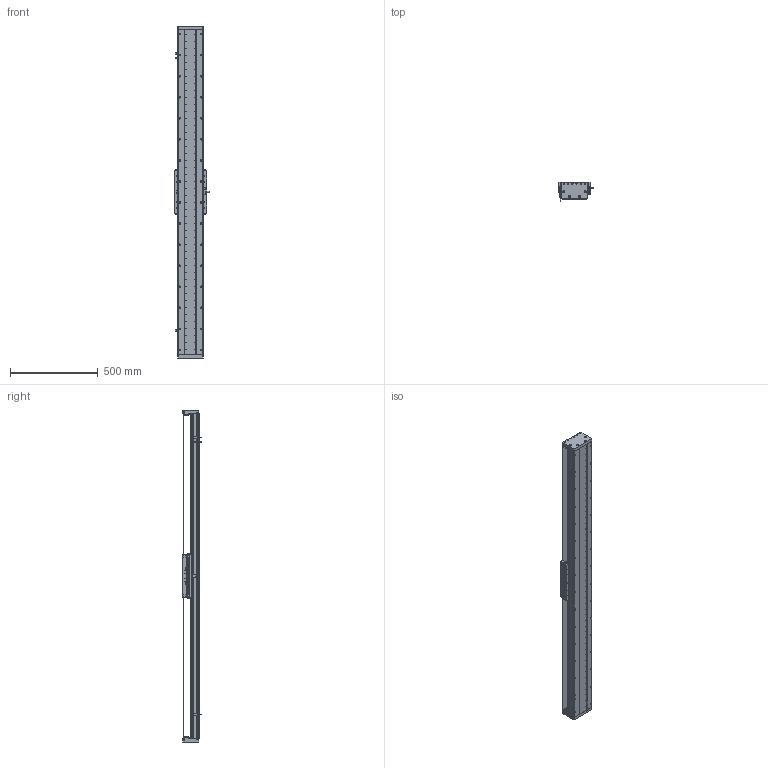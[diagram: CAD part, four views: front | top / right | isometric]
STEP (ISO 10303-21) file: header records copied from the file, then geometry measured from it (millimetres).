
FILE_DESCRIPTION (( 'STEP AP203' ), '1' );
FILE_NAME ('DA-C145-C3-T1560-C010-0.2 眻盄萇儂.STEP', '2025-08-14T01:25:54', ( '' ), ( '' ), 'SwSTEP 2.0', 'SolidWorks 2019', '' );
FILE_SCHEMA (( 'CONFIG_CONTROL_DESIGN' ));
Length unit declared in the file: millimetre
Products named in the file (32): 葩璃 鞠褒情蹟譫 M3^DA-C145-C3-T-C010-0.2; 葩璃 CKMA01-W060-TRL^DA-C145-C3-T-C010-0.2; 葩璃 DA95-GT-T-00^IU-CU145-L 菁釱絳寢; 葩璃 DA145-C3-DP-B-00 菜えB^CU145-W 幗紩賑怢; 复件 DA146 钢带垫块^复件 CU145 钢带组件_DA-C145-C3-T-C010-0.2; 葩璃 DMA-010-0.2 黍杅芛^DA-C145-C3-T-C010-0.2; 复件 DA145 钢带^复件 CU145 钢带组件_DA-C145-C3-T-C010-0.2; IU-CU145-L-00 菁釱(L1860); 复件 DA146 钢带拉块^复件 CU145 钢带组件_DA-C145-C3-T-C010-0.2; 葩璃 PM-T45^DA-C145-C3-T-C010-0.2; 葩璃 CKM03-W060-C1C2-TP-0.2^DA-C145-C3-T-C010-0.2; 葩璃 DA145-C3-DP-A-00 菜えA^CU145-W 幗紩賑怢; 复件 纯铜油杯 6x6mm^CU145-W 滚珠滑台; 66245-CU145-HT-W-00 賑雄怢啣(3D芞祧)(00); TAY01-M8; 复件 DA145-GYP-00 光电感应片^DA-C145-C3-T-C010-0.2; CU145-W-00 珨极趙賑雄怢啣; IU-CU145-L 菁釱絳寢; 复件 内六角平端紧定螺钉 GB.T77-2000 M5×10^CU145-W 滚珠滑台; 复件 DA95-HK-GT-00 滑块钢轨^CU145-W-00 一体化滑动台板; 葩璃 DA95-HXJ-00 遣喳砎蝶^DA-C145-C3-T-C010-0.2; 葩璃 CU145 詩湍郪璃^DA-C145-C3-T-C010-0.2; 复件 DA145-DG 钢带端盖^复件 CU145 钢带组件_DA-C145-C3-T-C010-0.2; 复件 DA145-C3-YB-A-00 压板A^CU145-W 滚珠滑台; DA-C145-C3-T1560-C010-0.2 眻盄萇儂; 复件 DA95-MFP-01 密封片^CU145-W 滚珠滑台; 复件 DA145-C3-YB-B-00 压板B^CU145-W 滚珠滑台; 复件 半圆头内六角螺钉 M3×6^CU145-W 滚珠滑台; 葩璃 XD-U-02L 棠掑喜^DA-C145-C3-T-C010-0.2; 复件 DA95-DB-00  挡板^CU145-W 滚珠滑台; 复件 DA145-C3-DK-00 挡块^CU145-W 滚珠滑台; CU145-W 幗紩賑怢
Assembly tree (103 placements, depth 4):
  DA-C145-C3-T1560-C010-0.2 眻盄萇儂
    IU-CU145-L 菁釱絳寢
      IU-CU145-L-00 菁釱(L1860)
      葩璃 DA95-GT-T-00^IU-CU145-L 菁釱絳寢  x4
    葩璃 CU145 詩湍郪璃^DA-C145-C3-T-C010-0.2
      复件 DA145-DG 钢带端盖^复件 CU145 钢带组件_DA-C145-C3-T-C010-0.2  x2
      复件 DA146 钢带拉块^复件 CU145 钢带组件_DA-C145-C3-T-C010-0.2  x2
      复件 DA146 钢带垫块^复件 CU145 钢带组件_DA-C145-C3-T-C010-0.2  x2
      复件 DA145 钢带^复件 CU145 钢带组件_DA-C145-C3-T-C010-0.2
    CU145-W 幗紩賑怢
      CU145-W-00 珨极趙賑雄怢啣
        66245-CU145-HT-W-00 賑雄怢啣(3D芞祧)(00)
        复件 DA95-HK-GT-00 滑块钢轨^CU145-W-00 一体化滑动台板  x8
      复件 DA95-MFP-01 密封片^CU145-W 滚珠滑台  x8
      复件 DA95-DB-00  挡板^CU145-W 滚珠滑台  x8
      复件 内六角平端紧定螺钉 GB.T77-2000 M5×10^CU145-W 滚珠滑台  x4
      复件 纯铜油杯 6x6mm^CU145-W 滚珠滑台  x4
      复件 半圆头内六角螺钉 M3×6^CU145-W 滚珠滑台  x16
      复件 DA145-C3-DK-00 挡块^CU145-W 滚珠滑台  x4
      葩璃 DA145-C3-DP-B-00 菜えB^CU145-W 幗紩賑怢  x2
      复件 DA145-C3-YB-B-00 压板B^CU145-W 滚珠滑台  x2
      葩璃 DA145-C3-DP-A-00 菜えA^CU145-W 幗紩賑怢  x3
      复件 DA145-C3-YB-A-00 压板A^CU145-W 滚珠滑台  x3
      TAY01-M8  x4
    葩璃 CKMA01-W060-TRL^DA-C145-C3-T-C010-0.2
    葩璃 PM-T45^DA-C145-C3-T-C010-0.2  x3
    葩璃 XD-U-02L 棠掑喜^DA-C145-C3-T-C010-0.2
    葩璃 DA95-HXJ-00 遣喳砎蝶^DA-C145-C3-T-C010-0.2  x4
    复件 DA145-GYP-00 光电感应片^DA-C145-C3-T-C010-0.2
    葩璃 DMA-010-0.2 黍杅芛^DA-C145-C3-T-C010-0.2
    葩璃 CKM03-W060-C1C2-TP-0.2^DA-C145-C3-T-C010-0.2
    葩璃 鞠褒情蹟譫 M3^DA-C145-C3-T-C010-0.2  x8
Bounding box: 203.5 x 108.45 x 1896 mm (x, y, z)
Volume: 9572180.3 mm3; surface area: 3101890.7 mm2
Topology: 99 solids, 131 shells, 4371 faces, 12086 edges, 7522 vertices
Faces by surface type: cylinder 2019, plane 1584, cone 690, torus 74, sphere 4
Entity records: 110628 total; most frequent: CARTESIAN_POINT 30810, ORIENTED_EDGE 15692, DIRECTION 15397, EDGE_CURVE 7846, AXIS2_PLACEMENT_3D 5768, VERTEX_POINT 5061, VECTOR 3861, LINE 3861
